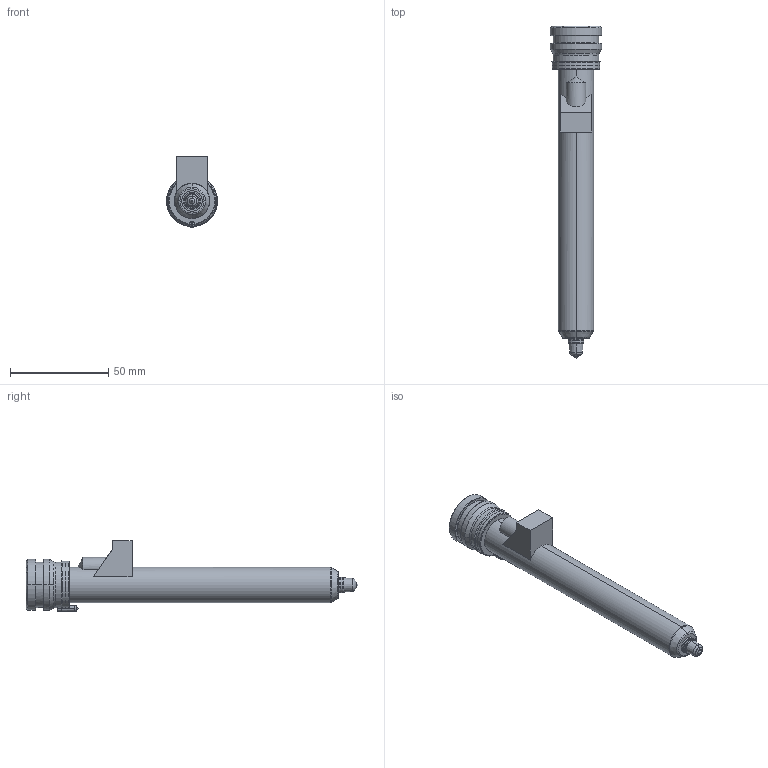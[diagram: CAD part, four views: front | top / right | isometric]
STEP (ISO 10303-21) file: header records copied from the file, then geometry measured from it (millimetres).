
FILE_DESCRIPTION((''),'2;1');
FILE_NAME('TH18151-M-1B50-PK-JG','2023-12-14T',('umhib'),('Thermoplay S.p.A.'),'PRO/ENGINEER BY PARAMETRIC TECHNOLOGY CORPORATION, 2017170','PRO/ENGINEER BY PARAMETRIC TECHNOLOGY CORPORATION, 2017170','');
FILE_SCHEMA(('CONFIG_CONTROL_DESIGN'));
Length unit declared in the file: millimetre
Products named in the file (1): TH18151-M-1B50-PK-JG
Bounding box: 26 x 169 x 36.1 mm (x, y, z)
Volume: 33352.6 mm3; surface area: 25335.1 mm2
Topology: 1 solids, 2 shells, 389 faces, 993 edges, 609 vertices
Faces by surface type: cylinder 149, plane 87, cone 62, torus 56, bspline 22, sphere 11, extrusion 2
Entity records: 16881 total; most frequent: CARTESIAN_POINT 5238, DIRECTION 1992, ORIENTED_EDGE 1960, EDGE_CURVE 982, AXIS2_PLACEMENT_3D 802, VERTEX_POINT 609, CIRCLE 436, EDGE_LOOP 412
